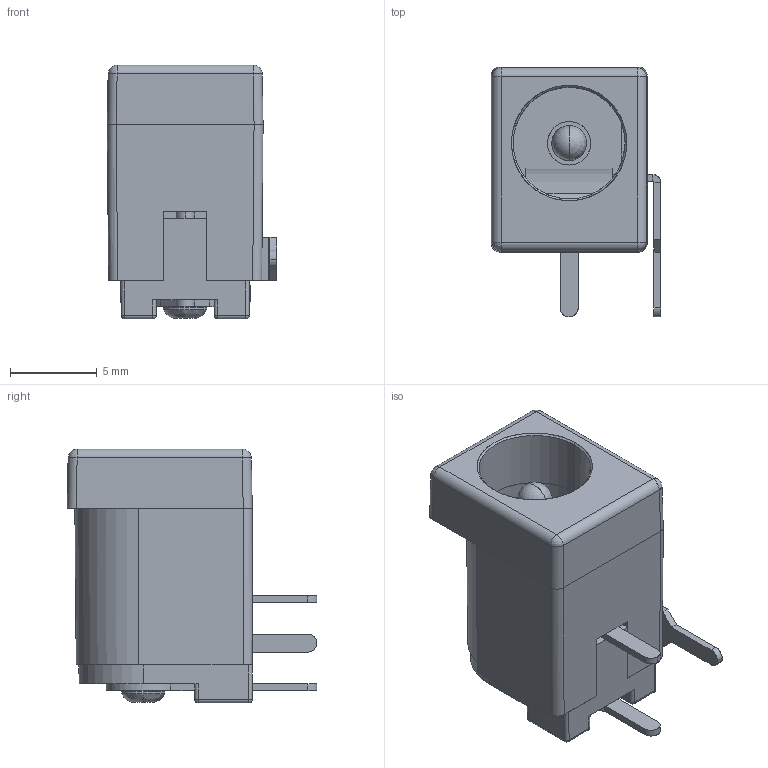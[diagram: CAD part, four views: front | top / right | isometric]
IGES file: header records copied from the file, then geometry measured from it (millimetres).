
Start section: SolidWorks IGES file using analytic representation for surfaces
Global section: file name: C:\WORKSPACE\Training Files\Power Jack\DC Power Jack 5.5mm x 2.1mm.IGS; native system: SolidWorks 2015; preprocessor: SolidWorks 2015; author: JG; date: 161007.194703; units: millimetre
Bounding box: 9.77 x 14.38 x 14.62 mm (x, y, z)
Surface area: 1625.2 mm2 (no closed solid volume)
Topology: 0 solids, 0 shells, 201 faces, 1556 edges, 1542 vertices
Faces by surface type: bspline 117, revolution 84
